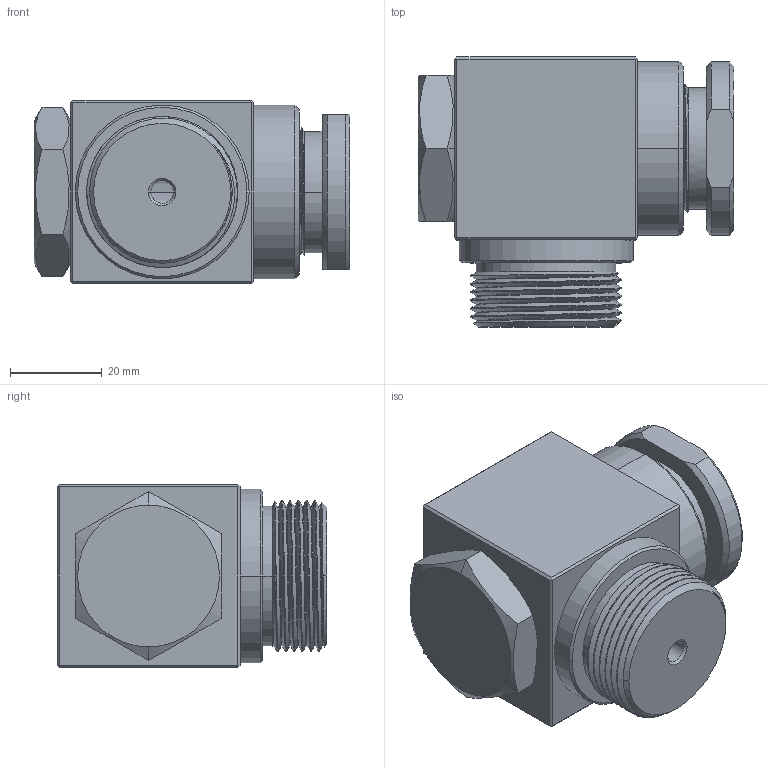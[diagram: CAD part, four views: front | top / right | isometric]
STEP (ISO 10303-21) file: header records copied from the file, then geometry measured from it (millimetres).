
FILE_DESCRIPTION((''),'2;1');
FILE_NAME('68000562300','2024-05-22T11:28:20',('alfio.taboni'),('CDM Tecnoconsulting'),'CREO PARAMETRIC BY PTC INC, 2023374','CREO PARAMETRIC BY PTC INC, 2023374','');
FILE_SCHEMA(('CONFIG_CONTROL_DESIGN','SHAPE_APPEARANCE_LAYERS_GROUPS'));
Length unit declared in the file: millimetre
Products named in the file (1): 68000562300
Bounding box: 69.03 x 59 x 40 mm (x, y, z)
Volume: 87716.7 mm3; surface area: 26514.9 mm2
Topology: 1 solids, 2 shells, 333 faces, 881 edges, 571 vertices
Faces by surface type: plane 145, cylinder 56, extrusion 56, bspline 37, cone 33, torus 6
Entity records: 30083 total; most frequent: CARTESIAN_POINT 17152, ORIENTED_EDGE 1762, PRESENTATION_STYLE_ASSIGNMENT 1272, DIRECTION 1243, STYLED_ITEM 939, CURVE_STYLE 937, EDGE_CURVE 881, VERTEX_POINT 571
